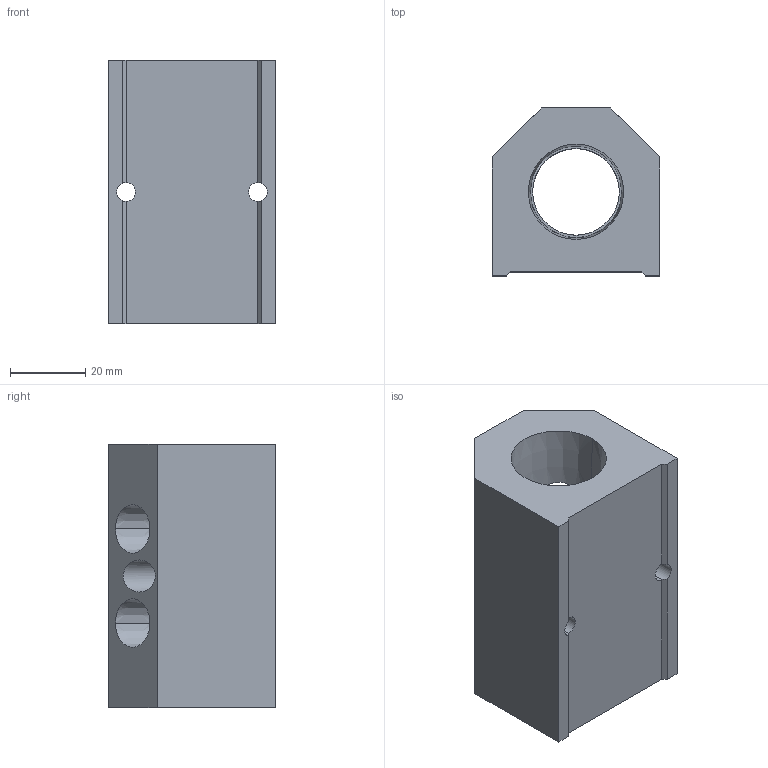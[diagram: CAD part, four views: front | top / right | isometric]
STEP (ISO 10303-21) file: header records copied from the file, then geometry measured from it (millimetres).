
FILE_DESCRIPTION (( 'STEP AP214' ), '1' );
FILE_NAME ('ALM2BD-N4N12-70B.step', '2022-02-06T14:10:21', ( '' ), ( '' ), 'SwSTEP 2.0', 'SolidWorks 2020', '' );
FILE_SCHEMA (( 'AUTOMOTIVE_DESIGN' ));
Length unit declared in the file: millimetre
Products named in the file (1): ALM2BD-N4N12-70B
Bounding box: 44.5 x 44.5 x 70 mm (x, y, z)
Volume: 85605.6 mm3; surface area: 21237.6 mm2
Topology: 1 solids, 1 shells, 289 faces, 771 edges, 510 vertices
Faces by surface type: plane 199, bspline 52, cone 20, cylinder 18
Entity records: 12943 total; most frequent: CARTESIAN_POINT 5943, ORIENTED_EDGE 1542, DIRECTION 1151, EDGE_CURVE 771, LINE 563, VECTOR 563, VERTEX_POINT 510, EDGE_LOOP 329
